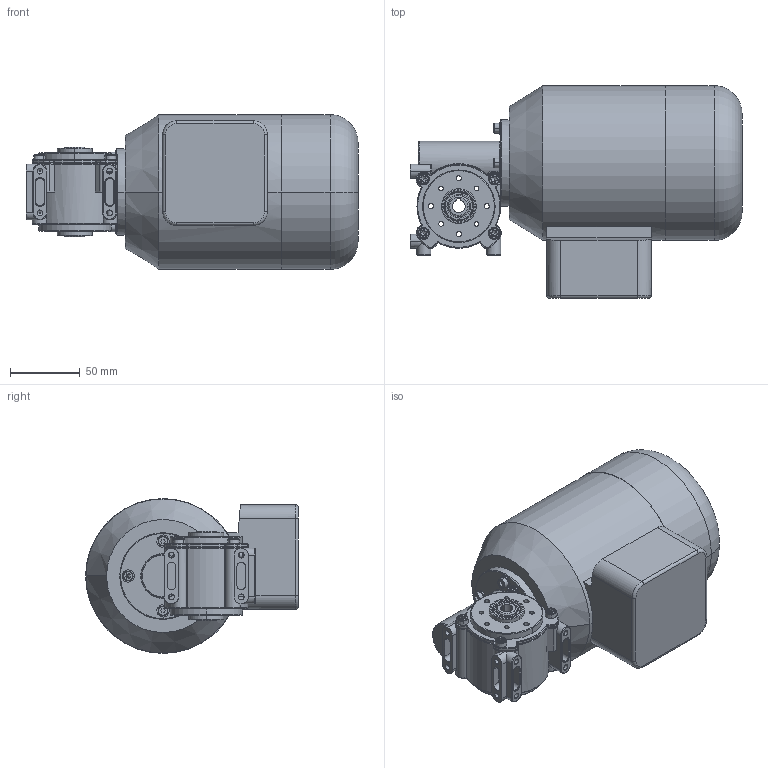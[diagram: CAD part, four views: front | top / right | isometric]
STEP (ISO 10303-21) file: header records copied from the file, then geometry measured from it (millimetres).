
FILE_DESCRIPTION (( 'STEP AP214' ), '1' );
FILE_NAME ('SN18H_90W_1400Upm_B.STEP', '2021-03-17T08:08:02', ( '' ), ( '' ), 'SwSTEP 2.0', 'SolidWorks 2019', '' );
FILE_SCHEMA (( 'AUTOMOTIVE_DESIGN' ));
Length unit declared in the file: millimetre
Products named in the file (1): SN18H_90W_1400Upm_B
Bounding box: 238 x 152.5 x 111 mm (x, y, z)
Surface area: 119257.7 mm2 (no closed solid volume)
Topology: 0 solids, 17 shells, 537 faces, 1485 edges, 963 vertices
Faces by surface type: cylinder 280, torus 126, plane 91, cone 30, sphere 6, bspline 4
Entity records: 25650 total; most frequent: CARTESIAN_POINT 5852, DIRECTION 3151, ORIENTED_EDGE 2706, EDGE_CURVE 1469, AXIS2_PLACEMENT_3D 1339, VERTEX_POINT 960, CIRCLE 805, EDGE_LOOP 615
